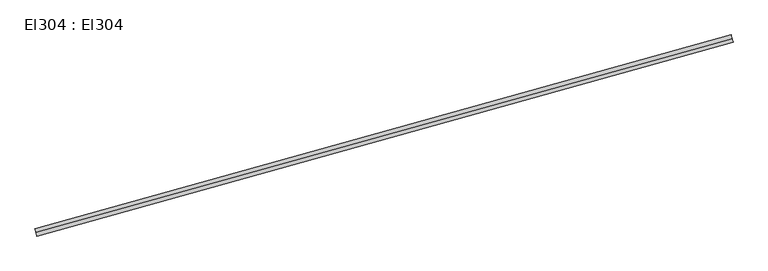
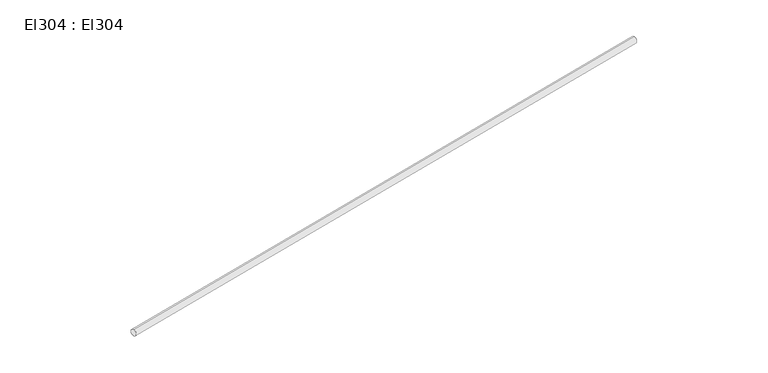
"""IFC4 building model written with IfcOpenShell, lengths in millimetres: cable carrier segment geometry, El304 : El304."""

from ifc_helpers import new_model, si_unit, point, frame, frame_2d, origin, place, context, project, spatial, circle_curve, trimmed, segment, composite_curve, outline, extrude, source, transform, mapped, element, save


def el304_el304_b01e26c7(model_context):
    return source(origin(), model_context, "Body", "SweptSolid", [
        extrude(outline(composite_curve([segment(trimmed(circle_curve(frame_2d((0.0, -9.5)), 9.5), [point((0.0, -19.0))], [point((0.0, 0.0))], False, "CARTESIAN"), True, "CONTINUOUS"), segment(trimmed(circle_curve(frame_2d((0.0, -9.5)), 9.5), [point((0.0, 0.0))], [point((0.0, -19.0))], False, "CARTESIAN"), True, "CONTINUOUS")], self_intersect=False)), frame((23931.88, 14279.633, 2959.5), z_axis=(0.9631689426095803, 0.2688969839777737, 0.0), x_axis=(-0.2688969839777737, 0.9631689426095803, 0.0)), (0.0, 0.0, 1.0), 1810.11),
    ])


if __name__ == "__main__":
    model = new_model("IFC4")
    model_context = context("Model", 3, world=origin())
    ifc_project = project(units=[si_unit("LENGTHUNIT", "METRE", prefix="MILLI")], contexts=[model_context])
    site = spatial("IfcSite", under=ifc_project)
    building = spatial("IfcBuilding", under=site)
    placement = place(None, origin())
    el304_el304_shape = el304_el304_b01e26c7(model_context)
    element("IfcCableCarrierSegment", 1, ObjectType="El304 : El304", at=placement, inside=building, context=model_context, shape_type="MappedRepresentation", body=[
        mapped(el304_el304_shape, transform((0.0, 0.0, 0.0), x_axis=(1.0, 0.0, 0.0), y_axis=(0.0, 1.0, 0.0), z_axis=(0.0, 0.0, 1.0))),
    ])
    save(model, "model.ifc")
